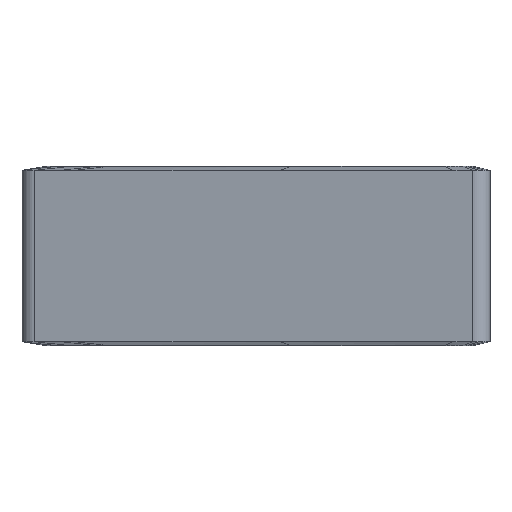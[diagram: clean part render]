
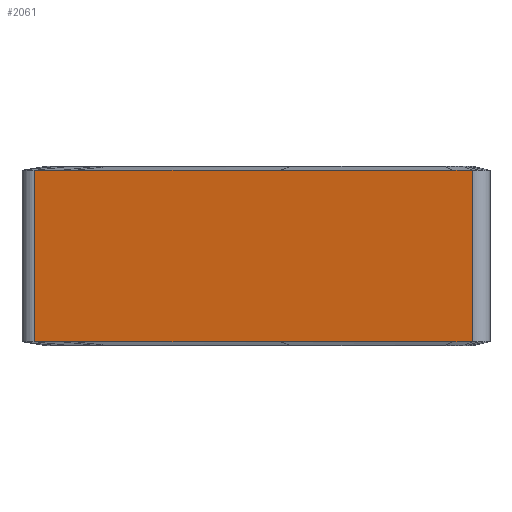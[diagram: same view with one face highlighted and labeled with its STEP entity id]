
A CAD part, left-side view. The second image highlights one B-rep face of the part: STEP entity #2061.
In plain terms, the highlighted planar face has unit normal (-0.985, 0.174, 0).
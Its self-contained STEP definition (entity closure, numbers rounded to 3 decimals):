
#1990=AXIS2_PLACEMENT_3D('Plane Axis2P3D',#1987,#1988,#1989) ;
#471=CARTESIAN_POINT('Vertex',(-7.485,-5.881,-4.76)) ;
#503=CARTESIAN_POINT('Vertex',(-7.485,-5.881,-0.11)) ;
#506=CARTESIAN_POINT('Line Origine',(-7.485,-5.881,-2.435)) ;
#1088=CARTESIAN_POINT('Vertex',(-5.387,6.02,-0.11)) ;
#1126=CARTESIAN_POINT('Control Point',(-5.387,6.02,-0.11)) ;
#1127=CARTESIAN_POINT('Control Point',(-5.413,5.87,-0.11)) ;
#1128=CARTESIAN_POINT('Control Point',(-5.44,5.72,-0.11)) ;
#1129=CARTESIAN_POINT('Control Point',(-5.466,5.57,-0.11)) ;
#1130=CARTESIAN_POINT('Control Point',(-5.492,5.421,-0.11)) ;
#1131=CARTESIAN_POINT('Control Point',(-5.519,5.271,-0.11)) ;
#1132=CARTESIAN_POINT('Vertex',(-5.519,5.271,-0.11)) ;
#1170=CARTESIAN_POINT('Control Point',(-5.519,5.271,-0.11)) ;
#1171=CARTESIAN_POINT('Control Point',(-5.532,5.194,-0.11)) ;
#1172=CARTESIAN_POINT('Control Point',(-5.546,5.118,-0.11)) ;
#1173=CARTESIAN_POINT('Control Point',(-5.559,5.041,-0.11)) ;
#1174=CARTESIAN_POINT('Control Point',(-5.573,4.964,-0.11)) ;
#1175=CARTESIAN_POINT('Control Point',(-5.586,4.888,-0.11)) ;
#1176=CARTESIAN_POINT('Vertex',(-5.586,4.888,-0.11)) ;
#1214=CARTESIAN_POINT('Control Point',(-5.586,4.888,-0.11)) ;
#1215=CARTESIAN_POINT('Control Point',(-5.782,3.779,-0.11)) ;
#1216=CARTESIAN_POINT('Control Point',(-5.977,2.671,-0.109)) ;
#1217=CARTESIAN_POINT('Control Point',(-6.173,1.562,-0.11)) ;
#1218=CARTESIAN_POINT('Control Point',(-6.368,0.454,-0.11)) ;
#1219=CARTESIAN_POINT('Control Point',(-6.564,-0.654,-0.11)) ;
#1220=CARTESIAN_POINT('Vertex',(-6.564,-0.654,-0.11)) ;
#1258=CARTESIAN_POINT('Control Point',(-6.564,-0.654,-0.11)) ;
#1259=CARTESIAN_POINT('Control Point',(-6.729,-1.592,-0.11)) ;
#1260=CARTESIAN_POINT('Control Point',(-6.894,-2.529,-0.11)) ;
#1261=CARTESIAN_POINT('Control Point',(-7.059,-3.467,-0.109)) ;
#1262=CARTESIAN_POINT('Control Point',(-7.225,-4.404,-0.11)) ;
#1263=CARTESIAN_POINT('Control Point',(-7.39,-5.341,-0.11)) ;
#1264=CARTESIAN_POINT('Vertex',(-7.39,-5.341,-0.11)) ;
#1302=CARTESIAN_POINT('Control Point',(-7.39,-5.341,-0.11)) ;
#1303=CARTESIAN_POINT('Control Point',(-7.409,-5.449,-0.11)) ;
#1304=CARTESIAN_POINT('Control Point',(-7.428,-5.557,-0.11)) ;
#1305=CARTESIAN_POINT('Control Point',(-7.447,-5.665,-0.11)) ;
#1306=CARTESIAN_POINT('Control Point',(-7.466,-5.773,-0.11)) ;
#1307=CARTESIAN_POINT('Control Point',(-7.485,-5.881,-0.11)) ;
#1987=CARTESIAN_POINT('Axis2P3D Location',(-7.485,-5.881,-0.001)) ;
#1993=CARTESIAN_POINT('Control Point',(-5.387,6.02,-4.76)) ;
#1994=CARTESIAN_POINT('Control Point',(-5.413,5.87,-4.76)) ;
#1995=CARTESIAN_POINT('Control Point',(-5.44,5.72,-4.76)) ;
#1996=CARTESIAN_POINT('Control Point',(-5.466,5.57,-4.76)) ;
#1997=CARTESIAN_POINT('Control Point',(-5.492,5.421,-4.76)) ;
#1998=CARTESIAN_POINT('Control Point',(-5.519,5.271,-4.76)) ;
#1999=CARTESIAN_POINT('Vertex',(-5.519,5.271,-4.76)) ;
#2001=CARTESIAN_POINT('Vertex',(-5.387,6.02,-4.76)) ;
#2005=CARTESIAN_POINT('Control Point',(-5.519,5.271,-4.76)) ;
#2006=CARTESIAN_POINT('Control Point',(-5.532,5.194,-4.76)) ;
#2007=CARTESIAN_POINT('Control Point',(-5.546,5.118,-4.76)) ;
#2008=CARTESIAN_POINT('Control Point',(-5.559,5.041,-4.76)) ;
#2009=CARTESIAN_POINT('Control Point',(-5.573,4.964,-4.76)) ;
#2010=CARTESIAN_POINT('Control Point',(-5.586,4.888,-4.76)) ;
#2011=CARTESIAN_POINT('Vertex',(-5.586,4.888,-4.76)) ;
#2015=CARTESIAN_POINT('Control Point',(-5.586,4.888,-4.76)) ;
#2016=CARTESIAN_POINT('Control Point',(-5.782,3.779,-4.76)) ;
#2017=CARTESIAN_POINT('Control Point',(-5.977,2.671,-4.761)) ;
#2018=CARTESIAN_POINT('Control Point',(-6.173,1.562,-4.76)) ;
#2019=CARTESIAN_POINT('Control Point',(-6.368,0.454,-4.76)) ;
#2020=CARTESIAN_POINT('Control Point',(-6.564,-0.654,-4.76)) ;
#2021=CARTESIAN_POINT('Vertex',(-6.564,-0.654,-4.76)) ;
#2025=CARTESIAN_POINT('Control Point',(-6.564,-0.654,-4.76)) ;
#2026=CARTESIAN_POINT('Control Point',(-6.729,-1.592,-4.76)) ;
#2027=CARTESIAN_POINT('Control Point',(-6.894,-2.529,-4.76)) ;
#2028=CARTESIAN_POINT('Control Point',(-7.059,-3.467,-4.761)) ;
#2029=CARTESIAN_POINT('Control Point',(-7.225,-4.404,-4.76)) ;
#2030=CARTESIAN_POINT('Control Point',(-7.39,-5.341,-4.76)) ;
#2031=CARTESIAN_POINT('Vertex',(-7.39,-5.341,-4.76)) ;
#2035=CARTESIAN_POINT('Control Point',(-7.39,-5.341,-4.76)) ;
#2036=CARTESIAN_POINT('Control Point',(-7.409,-5.449,-4.76)) ;
#2037=CARTESIAN_POINT('Control Point',(-7.428,-5.557,-4.76)) ;
#2038=CARTESIAN_POINT('Control Point',(-7.447,-5.665,-4.76)) ;
#2039=CARTESIAN_POINT('Control Point',(-7.466,-5.773,-4.76)) ;
#2040=CARTESIAN_POINT('Control Point',(-7.485,-5.881,-4.76)) ;
#2042=CARTESIAN_POINT('Line Origine',(-5.387,6.02,-2.435)) ;
#507=DIRECTION('Vector Direction',(0.,0.,1.)) ;
#1988=DIRECTION('Axis2P3D Direction',(-0.985,0.174,0.)) ;
#1989=DIRECTION('Axis2P3D XDirection',(0.174,0.985,0.)) ;
#2043=DIRECTION('Vector Direction',(0.,0.,-1.)) ;
#508=VECTOR('Line Direction',#507,1.) ;
#2044=VECTOR('Line Direction',#2043,1.) ;
#2048=ORIENTED_EDGE('',*,*,#2003,.F.) ;
#2049=ORIENTED_EDGE('',*,*,#2013,.F.) ;
#2050=ORIENTED_EDGE('',*,*,#2023,.F.) ;
#2051=ORIENTED_EDGE('',*,*,#2033,.T.) ;
#2052=ORIENTED_EDGE('',*,*,#2041,.T.) ;
#2053=ORIENTED_EDGE('',*,*,#510,.T.) ;
#2054=ORIENTED_EDGE('',*,*,#1308,.F.) ;
#2055=ORIENTED_EDGE('',*,*,#1266,.F.) ;
#2056=ORIENTED_EDGE('',*,*,#1222,.T.) ;
#2057=ORIENTED_EDGE('',*,*,#1178,.T.) ;
#2058=ORIENTED_EDGE('',*,*,#1134,.T.) ;
#2059=ORIENTED_EDGE('',*,*,#2046,.F.) ;
#2061=ADVANCED_FACE('CUT',(#2060),#1991,.T.) ;
#1125=B_SPLINE_CURVE_WITH_KNOTS('',5,(#1126,#1127,#1128,#1129,#1130,#1131),.UNSPECIFIED.,.F.,.U.,(6,6),(0.,0.72),.UNSPECIFIED.) ;
#1169=B_SPLINE_CURVE_WITH_KNOTS('',5,(#1170,#1171,#1172,#1173,#1174,#1175),.UNSPECIFIED.,.F.,.U.,(6,6),(0.,0.368),.UNSPECIFIED.) ;
#1213=B_SPLINE_CURVE_WITH_KNOTS('',5,(#1214,#1215,#1216,#1217,#1218,#1219),.UNSPECIFIED.,.F.,.U.,(6,6),(0.,5.328),.UNSPECIFIED.) ;
#1257=B_SPLINE_CURVE_WITH_KNOTS('',5,(#1258,#1259,#1260,#1261,#1262,#1263),.UNSPECIFIED.,.F.,.U.,(6,6),(0.,4.505),.UNSPECIFIED.) ;
#1301=B_SPLINE_CURVE_WITH_KNOTS('',5,(#1302,#1303,#1304,#1305,#1306,#1307),.UNSPECIFIED.,.F.,.U.,(6,6),(0.,0.518),.UNSPECIFIED.) ;
#1992=B_SPLINE_CURVE_WITH_KNOTS('',5,(#1993,#1994,#1995,#1996,#1997,#1998),.UNSPECIFIED.,.F.,.U.,(6,6),(0.,1.047),.UNSPECIFIED.) ;
#2004=B_SPLINE_CURVE_WITH_KNOTS('',5,(#2005,#2006,#2007,#2008,#2009,#2010),.UNSPECIFIED.,.F.,.U.,(6,6),(0.,0.536),.UNSPECIFIED.) ;
#2014=B_SPLINE_CURVE_WITH_KNOTS('',5,(#2015,#2016,#2017,#2018,#2019,#2020),.UNSPECIFIED.,.F.,.U.,(6,6),(0.,7.75),.UNSPECIFIED.) ;
#2024=B_SPLINE_CURVE_WITH_KNOTS('',5,(#2025,#2026,#2027,#2028,#2029,#2030),.UNSPECIFIED.,.F.,.U.,(6,6),(0.,6.553),.UNSPECIFIED.) ;
#2034=B_SPLINE_CURVE_WITH_KNOTS('',5,(#2035,#2036,#2037,#2038,#2039,#2040),.UNSPECIFIED.,.F.,.U.,(6,6),(0.,0.754),.UNSPECIFIED.) ;
#510=EDGE_CURVE('',#472,#504,#509,.T.) ;
#1134=EDGE_CURVE('',#1133,#1089,#1125,.F.) ;
#1178=EDGE_CURVE('',#1177,#1133,#1169,.F.) ;
#1222=EDGE_CURVE('',#1221,#1177,#1213,.F.) ;
#1266=EDGE_CURVE('',#1221,#1265,#1257,.T.) ;
#1308=EDGE_CURVE('',#1265,#504,#1301,.T.) ;
#2003=EDGE_CURVE('',#2000,#2002,#1992,.F.) ;
#2013=EDGE_CURVE('',#2012,#2000,#2004,.F.) ;
#2023=EDGE_CURVE('',#2022,#2012,#2014,.F.) ;
#2033=EDGE_CURVE('',#2022,#2032,#2024,.T.) ;
#2041=EDGE_CURVE('',#2032,#472,#2034,.T.) ;
#2046=EDGE_CURVE('',#2002,#1089,#2045,.F.) ;
#2047=EDGE_LOOP('',(#2048,#2049,#2050,#2051,#2052,#2053,#2054,#2055,#2056,#2057,#2058,#2059)) ;
#2060=FACE_OUTER_BOUND('',#2047,.T.) ;
#509=LINE('Line',#506,#508) ;
#2045=LINE('Line',#2042,#2044) ;
#1991=PLANE('',#1990) ;
#472=VERTEX_POINT('',#471) ;
#504=VERTEX_POINT('',#503) ;
#1089=VERTEX_POINT('',#1088) ;
#1133=VERTEX_POINT('',#1132) ;
#1177=VERTEX_POINT('',#1176) ;
#1221=VERTEX_POINT('',#1220) ;
#1265=VERTEX_POINT('',#1264) ;
#2000=VERTEX_POINT('',#1999) ;
#2002=VERTEX_POINT('',#2001) ;
#2012=VERTEX_POINT('',#2011) ;
#2022=VERTEX_POINT('',#2021) ;
#2032=VERTEX_POINT('',#2031) ;
